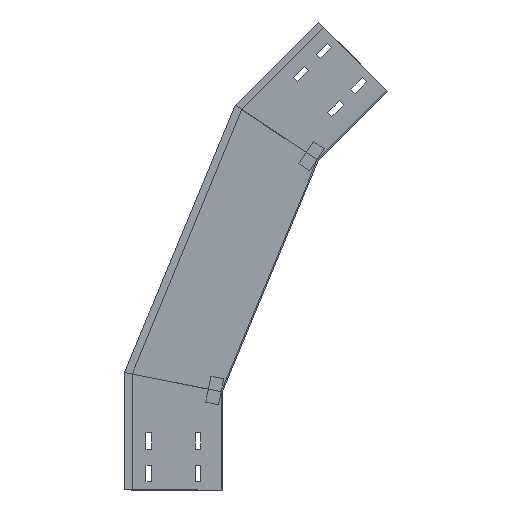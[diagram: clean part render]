
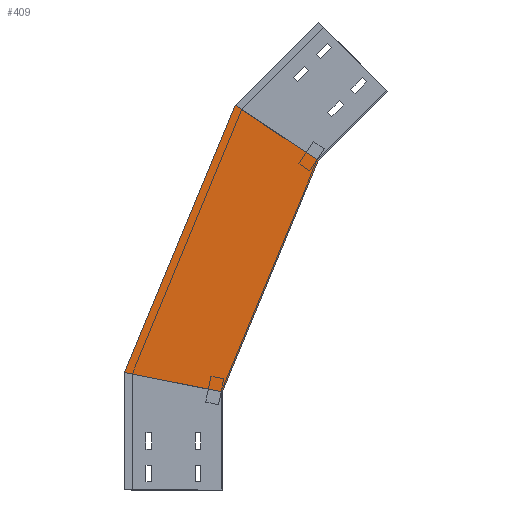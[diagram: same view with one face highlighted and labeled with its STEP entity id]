
A CAD part, left-side view. The second image highlights one B-rep face of the part: STEP entity #409.
In plain terms, the highlighted planar face has unit normal (-1, 0, 0) as drawn and (1, 0, 0) by its records, which use the part's own axes.
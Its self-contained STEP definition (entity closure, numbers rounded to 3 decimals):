
#73 = LINE ( 'NONE', #1799, #917 ) ;
#145 = PLANE ( 'NONE',  #927 ) ;
#209 = LINE ( 'NONE', #1293, #270 ) ;
#248 = ORIENTED_EDGE ( 'NONE', *, *, #1663, .F. ) ;
#270 = VECTOR ( 'NONE', #1146, 1000. ) ;
#348 = VERTEX_POINT ( 'NONE', #816 ) ;
#409 = ADVANCED_FACE ( 'NONE', ( #819 ), #145, .T. ) ;
#454 = CARTESIAN_POINT ( 'NONE',  ( 0., -146.568, 503.846 ) ) ;
#499 = LINE ( 'NONE', #805, #701 ) ;
#505 = VERTEX_POINT ( 'NONE', #454 ) ;
#562 = ORIENTED_EDGE ( 'NONE', *, *, #617, .F. ) ;
#582 = DIRECTION ( 'NONE',  ( 0., -0.383, 0.924 ) ) ;
#617 = EDGE_CURVE ( 'NONE', #1271, #505, #209, .T. ) ;
#701 = VECTOR ( 'NONE', #1096, 1000. ) ;
#703 = VECTOR ( 'NONE', #582, 1000. ) ;
#783 = DIRECTION ( 'NONE',  ( 1., 0., 0. ) ) ;
#805 = CARTESIAN_POINT ( 'NONE',  ( 0., -214.035, 458.766 ) ) ;
#816 = CARTESIAN_POINT ( 'NONE',  ( 0., -19.404, 588.814 ) ) ;
#819 = FACE_OUTER_BOUND ( 'NONE', #1228, .T. ) ;
#856 = VERTEX_POINT ( 'NONE', #2007 ) ;
#915 = LINE ( 'NONE', #1186, #703 ) ;
#917 = VECTOR ( 'NONE', #1489, 1000. ) ;
#927 = AXIS2_PLACEMENT_3D ( 'NONE', #1269, #783, #1713 ) ;
#1063 = EDGE_CURVE ( 'NONE', #348, #505, #499, .T. ) ;
#1096 = DIRECTION ( 'NONE',  ( 0., -0.831, -0.556 ) ) ;
#1146 = DIRECTION ( 'NONE',  ( 0., -0.383, 0.924 ) ) ;
#1186 = CARTESIAN_POINT ( 'NONE',  ( 0., 151.18, 176.988 ) ) ;
#1212 = CARTESIAN_POINT ( 'NONE',  ( 0., 0., 150. ) ) ;
#1228 = EDGE_LOOP ( 'NONE', ( #1893, #1488, #562, #248 ) ) ;
#1269 = CARTESIAN_POINT ( 'NONE',  ( 0., 12.598, 119.585 ) ) ;
#1271 = VERTEX_POINT ( 'NONE', #1212 ) ;
#1289 = EDGE_CURVE ( 'NONE', #856, #348, #915, .T. ) ;
#1293 = CARTESIAN_POINT ( 'NONE',  ( 0., 12.598, 119.585 ) ) ;
#1488 = ORIENTED_EDGE ( 'NONE', *, *, #1063, .T. ) ;
#1489 = DIRECTION ( 'NONE',  ( 0., -0.981, -0.195 ) ) ;
#1663 = EDGE_CURVE ( 'NONE', #856, #1271, #73, .T. ) ;
#1713 = DIRECTION ( 'NONE',  ( 0., 0., -1. ) ) ;
#1799 = CARTESIAN_POINT ( 'NONE',  ( 0., -28.701, 144.291 ) ) ;
#1893 = ORIENTED_EDGE ( 'NONE', *, *, #1289, .T. ) ;
#2007 = CARTESIAN_POINT ( 'NONE',  ( 0., 150., 179.837 ) ) ;
